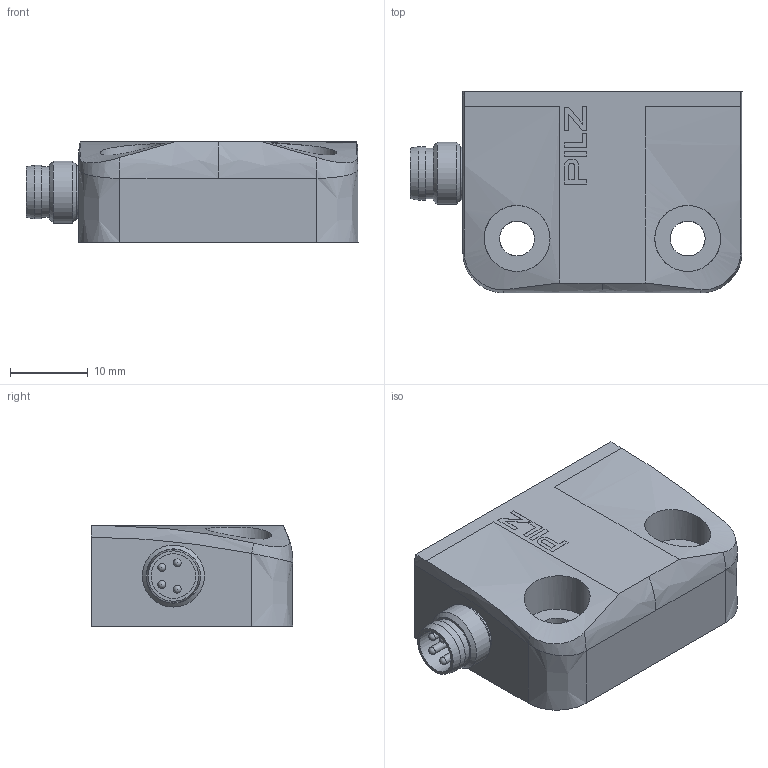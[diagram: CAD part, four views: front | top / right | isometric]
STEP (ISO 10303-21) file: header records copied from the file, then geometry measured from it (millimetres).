
FILE_DESCRIPTION(/* description */ (''),/* implementation_level */ '2;1');
FILE_NAME(/* name */ 'D:\_Vault\Workspace\Projektordner\Sensoren\Magnetschalter\PSEN 1.1_2.1\Kundendaten/2025866_A_PSEN_X_1p_switch.stp',/* time_stamp */ '2018-02-21T09:12:00+01:00',/* author */ ('prim'),/* organization */ (''),/* preprocessor_version */ 'ST-DEVELOPER v16.5',/* originating_system */ 'Autodesk Inventor 2017',/* authorisation */ '');
FILE_SCHEMA (('AUTOMOTIVE_DESIGN { 1 0 10303 214 3 1 1 }'));
Length unit declared in the file: millimetre
Products named in the file (1): 2025866
Bounding box: 42.8 x 26 x 13.01 mm (x, y, z)
Volume: 10861 mm3; surface area: 4049.4 mm2
Topology: 1 solids, 1 shells, 94 faces, 265 edges, 187 vertices
Faces by surface type: plane 60, cylinder 13, bspline 12, cone 5, sphere 4
Full cylindrical faces by diameter (mm): 1 x4, 5.75 x1, 6.5 x1, 6.8 x1, 6.9 x1, 8 x1, 8.5 x2
Entity records: 5148 total; most frequent: CARTESIAN_POINT 2876, ORIENTED_EDGE 466, DIRECTION 395, EDGE_CURVE 233, VERTEX_POINT 173, LINE 163, VECTOR 163, EDGE_LOOP 130
